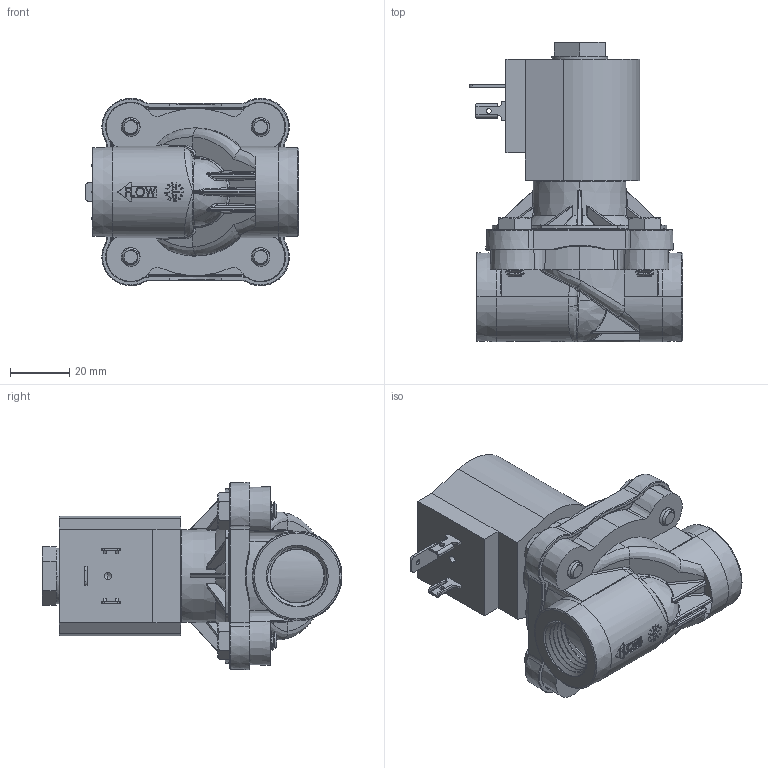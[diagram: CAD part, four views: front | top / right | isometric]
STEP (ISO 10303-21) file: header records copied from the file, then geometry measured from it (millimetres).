
FILE_DESCRIPTION (( 'STEP AP203' ), '1' );
FILE_NAME ('S201YxxxxPDG4.STEP', '2024-05-02T15:01:59', ( '' ), ( '' ), 'SwSTEP 2.0', 'SolidWorks 2023', '' );
FILE_SCHEMA (( 'CONFIG_CONTROL_DESIGN' ));
Length unit declared in the file: millimetre
Products named in the file (1): S201YxxxxPDG4
Bounding box: 72.39 x 101.56 x 63.5 mm (x, y, z)
Volume: 165382.8 mm3; surface area: 32056 mm2
Topology: 1 solids, 2 shells, 2111 faces, 5453 edges, 3307 vertices
Faces by surface type: bspline 894, plane 549, cylinder 260, torus 172, cone 151, sphere 85
Entity records: 104882 total; most frequent: CARTESIAN_POINT 61043, ORIENTED_EDGE 10676, DIRECTION 6830, EDGE_CURVE 5338, VERTEX_POINT 3304, AXIS2_PLACEMENT_3D 2484, EDGE_LOOP 2192, ADVANCED_FACE 2111
